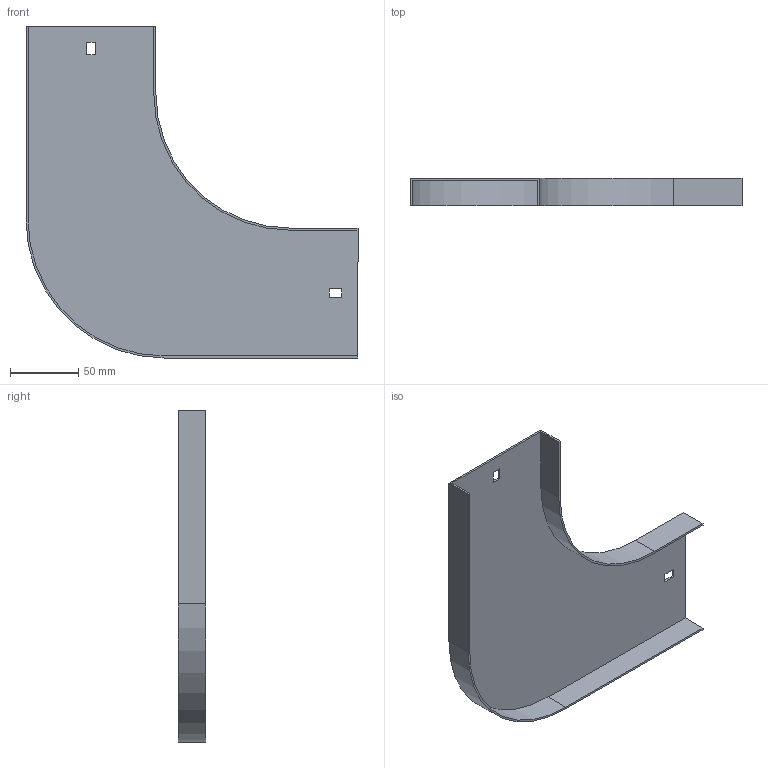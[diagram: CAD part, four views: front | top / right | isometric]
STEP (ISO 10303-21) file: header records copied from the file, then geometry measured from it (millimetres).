
FILE_DESCRIPTION (( 'STEP AP214' ), '1' );
FILE_NAME ('10N1R092.step', '2025-02-21T09:21:31', ( '' ), ( '' ), 'SwSTEP 2.0', 'SolidWorks 2023', '' );
FILE_SCHEMA (( 'AUTOMOTIVE_DESIGN' ));
Length unit declared in the file: millimetre
Products named in the file (1): 10N1R092
Bounding box: 244 x 20 x 244 mm (x, y, z)
Volume: 75258.7 mm3; surface area: 101884.1 mm2
Topology: 1 solids, 1 shells, 26 faces, 72 edges, 48 vertices
Faces by surface type: plane 22, cylinder 4
Entity records: 855 total; most frequent: CARTESIAN_POINT 147, ORIENTED_EDGE 144, DIRECTION 134, EDGE_CURVE 72, VECTOR 64, LINE 64, VERTEX_POINT 48, AXIS2_PLACEMENT_3D 35
